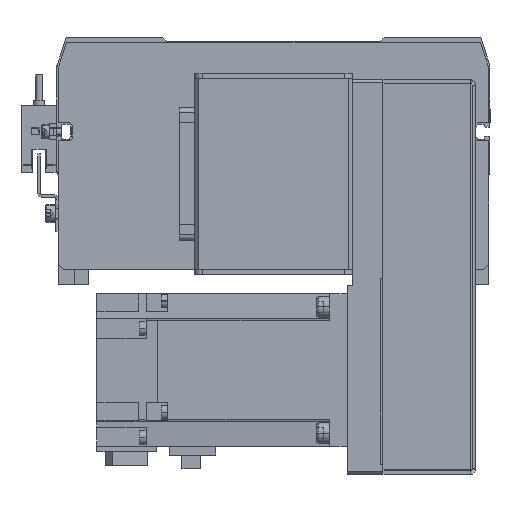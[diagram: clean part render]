
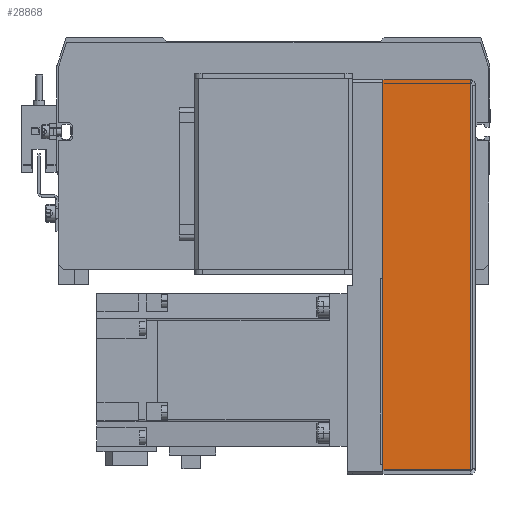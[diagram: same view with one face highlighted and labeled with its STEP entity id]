
A CAD part, front view. The second image highlights one B-rep face of the part: STEP entity #28868.
In plain terms, the highlighted planar face has unit normal (0, -1, 0).
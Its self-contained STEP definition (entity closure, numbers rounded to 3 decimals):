
#803 = CARTESIAN_POINT ( 'NONE',  ( 35., -14.163, 18.873 ) ) ;
#2155 = ORIENTED_EDGE ( 'NONE', *, *, #38942, .F. ) ;
#3863 = LINE ( 'NONE', #30349, #39723 ) ;
#9698 = VECTOR ( 'NONE', #33738, 1000. ) ;
#10126 = DIRECTION ( 'NONE',  ( -1., 0., 0. ) ) ;
#10448 = DIRECTION ( 'NONE',  ( 0., 0., -1. ) ) ;
#11334 = DIRECTION ( 'NONE',  ( 1., 0., 0. ) ) ;
#12021 = FACE_OUTER_BOUND ( 'NONE', #18345, .T. ) ;
#13690 = AXIS2_PLACEMENT_3D ( 'NONE', #20099, #40246, #10126 ) ;
#14506 = ORIENTED_EDGE ( 'NONE', *, *, #34034, .F. ) ;
#16632 = PLANE ( 'NONE',  #13690 ) ;
#17993 = VERTEX_POINT ( 'NONE', #18656 ) ;
#18255 = VERTEX_POINT ( 'NONE', #26209 ) ;
#18345 = EDGE_LOOP ( 'NONE', ( #2155, #37949, #14506, #20912 ) ) ;
#18656 = CARTESIAN_POINT ( 'NONE',  ( 0.737, -14.163, 18.873 ) ) ;
#19278 = CARTESIAN_POINT ( 'NONE',  ( 0.737, -14.163, 20.673 ) ) ;
#20099 = CARTESIAN_POINT ( 'NONE',  ( 0., -14.163, 0. ) ) ;
#20881 = LINE ( 'NONE', #19278, #28178 ) ;
#20912 = ORIENTED_EDGE ( 'NONE', *, *, #32300, .F. ) ;
#26209 = CARTESIAN_POINT ( 'NONE',  ( 0.737, -14.163, -134.327 ) ) ;
#26448 = CARTESIAN_POINT ( 'NONE',  ( 0.737, -14.163, 18.873 ) ) ;
#28178 = VECTOR ( 'NONE', #42547, 1000. ) ;
#28868 = ADVANCED_FACE ( 'NONE', ( #12021 ), #16632, .F. ) ;
#30349 = CARTESIAN_POINT ( 'NONE',  ( 35., -14.163, 20.673 ) ) ;
#32249 = CARTESIAN_POINT ( 'NONE',  ( 35., -14.163, -134.327 ) ) ;
#32300 = EDGE_CURVE ( 'NONE', #17993, #40429, #33089, .T. ) ;
#32654 = VERTEX_POINT ( 'NONE', #32249 ) ;
#33089 = LINE ( 'NONE', #26448, #9698 ) ;
#33738 = DIRECTION ( 'NONE',  ( 1., 0., 0. ) ) ;
#34034 = EDGE_CURVE ( 'NONE', #40429, #32654, #3863, .T. ) ;
#34365 = LINE ( 'NONE', #38096, #34898 ) ;
#34898 = VECTOR ( 'NONE', #11334, 1000. ) ;
#36266 = EDGE_CURVE ( 'NONE', #18255, #32654, #34365, .T. ) ;
#37949 = ORIENTED_EDGE ( 'NONE', *, *, #36266, .T. ) ;
#38096 = CARTESIAN_POINT ( 'NONE',  ( 0.737, -14.163, -134.327 ) ) ;
#38942 = EDGE_CURVE ( 'NONE', #18255, #17993, #20881, .T. ) ;
#39723 = VECTOR ( 'NONE', #10448, 1000. ) ;
#40246 = DIRECTION ( 'NONE',  ( 0., 1., 0. ) ) ;
#40429 = VERTEX_POINT ( 'NONE', #803 ) ;
#42547 = DIRECTION ( 'NONE',  ( 0., 0., 1. ) ) ;
